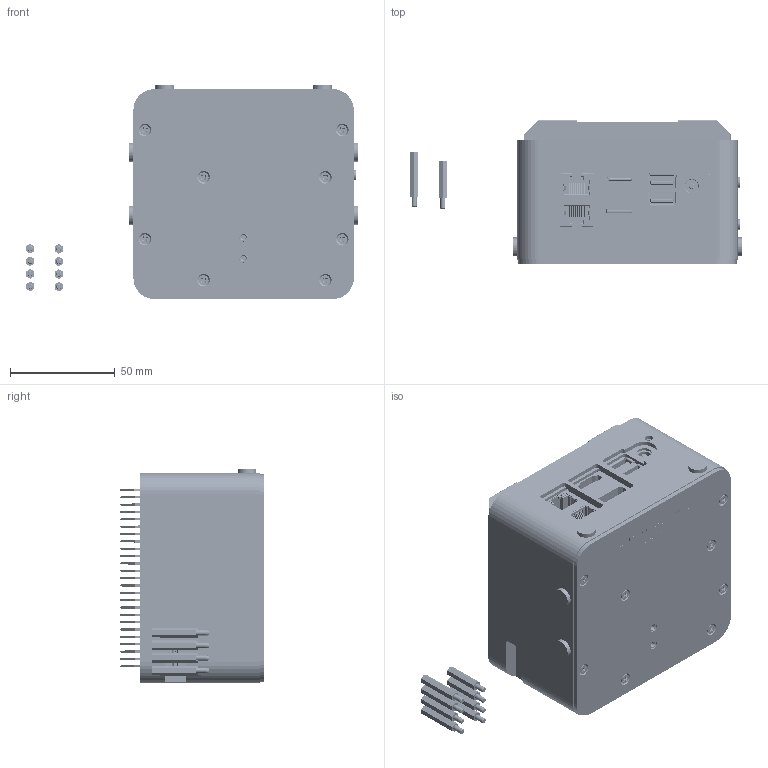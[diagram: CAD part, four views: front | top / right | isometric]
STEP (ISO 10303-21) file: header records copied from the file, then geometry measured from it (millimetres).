
FILE_DESCRIPTION (( 'STEP AP203' ), '1' );
FILE_NAME ('HS-ATM+MID-57+BOTPLT 190114.STEP', '2019-01-14T03:19:50', ( '' ), ( '' ), 'SwSTEP 2.0', 'SolidWorks 2013', '' );
FILE_SCHEMA (( 'CONFIG_CONTROL_DESIGN' ));
Length unit declared in the file: millimetre
Products named in the file (69): G7410-22000001-00_2_ASM; 蹟譫M2.5XH5X23; R47_4; U43_2; FH35-41S-0_3SHW_ASM_2_ASM; 1655802020_2; HS-ATM+MID-57+BOTPLT 190114; PCB-85-85_16; 蹟譫M2.5XH5X26; CHIKE-1_4; PCBA-UP2-85-56_ASM_91_ASM; 3VD1120X-XHJ0-4H_20160602_4; ASSEMBLY-1_ASM_2_ASM; U11_3; 5406-X01-021-XX_ASM_1_ASM; 笢褲 UP2 lora 20180621; MINI-PCI-EXPRESS-52PIN_2; M2.5X3.4鎚芛穩隊; 狟裔啣 UP2 0927; CPU_9; 硅胶塞 9.5X6.5X9; MANIFOLD_SOLID_BREP_278388; 1654809302_2; SO-M2P5-STANDOFF-L5P0_2; FH35-21S-03SHW_2; AYF333135-CLOSED_2; 1601000990_3; PRT0211_3_2; MANIFOLD_SOLID_BREP_278877; 导热垫 10X10X1.5; 导热垫 33X26X0.5; U10_3; MANIFOLD_SOLID_BREP_278714; ASM0111_ASM_2_ASM; PRT0213_3_2; 1304300140_2; 530470210_2; FH35-41S-03SHW_2; M-2_ASM_2_ASM; 5406-X01-011-XX_ASM_ASM_1_ASM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
Assembly tree (109 placements, depth 6):
  HS-ATM+MID-57+BOTPLT 190114
    导热垫 10X10X1.5  x2
    导热垫 33X26X0.5
    奻裔啣 UP2  ATOM UP2-2
    MID-57 20181023
      笢褲 UP2 lora 20180621
      絳盄漆蹴 21X14X1
      絳盄漆蹴 85X33X1
      硅胶塞 5X5.5X3.3  x2
      硅胶塞 9.5X6.5X9  x6
      蹟譫M2.5XH5X26  x4
      蹟譫M2.5XH5X23  x4
    pcba-up2+heatsink-106-06-01  无标准散热片
      PCBA-UP2-85-56_ASM_91_ASM
        PCB-85-85_16
        PIN-HEADER-DUAL-254-040_2
        1652503109_2
        1654907009_4
        1304300140_2  x4
        1601000990_3
        PIN-HEADER-2P0-06_2
        1655910130_2
        530470210_2
        M-2_ASM_2_ASM
          PRT0210_3_2
          PRT0211_3_2  x4
          PRT0212_3_2  x4
          PRT0213_3_2  x2
          2230-MINI-PCIE_3_2
        0717A0BA99C_2
        SO-M2P5-STANDOFF-L5P0_2
        MINI-PCI-EXPRESS-52PIN_2
        SO-GUIDE-M3_STANDOFFS-_5P0_2
        CPU_9
        1654801010_4
        G7410-22000001-00_2_ASM
          G7410-22000001-00_2_ASM
          MANIFOLD_SOLID_BREP_278388
          MANIFOLD_SOLID_BREP_278551
          MANIFOLD_SOLID_BREP_278714
          MANIFOLD_SOLID_BREP_278877
        WAFER-JST-B02B-PH-K-S_2
        FH35-21S-0_3SHW_ASM_2_ASM
          ASSEMBLY-1_ASM_2_ASM
            FH35-21S-03SHW_2
        FH35-41S-0_3SHW_ASM_2_ASM
          ASM0111_ASM_2_ASM
            FH35-41S-03SHW_2
        AYF333135-CLOSED_2
        U11_3
        U10_3  x3
        U52_4
        U43_2
        CHIKE-1_4
        CHOKE_4
        R47_4  x5
        CN3_3  x2
        3VD1120X-XHJ0-4H_20160602_4
        AXK6S60547Y_3
        1654809302_2
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Bounding box: 158.15 x 68.4 x 102 mm (x, y, z)
Volume: 225674.3 mm3; surface area: 230937.8 mm2
Topology: 96 solids, 130 shells, 18715 faces, 52546 edges, 34024 vertices
Faces by surface type: plane 12631, cylinder 4542, bspline 664, cone 550, torus 328
Entity records: 593410 total; most frequent: CARTESIAN_POINT 149053, ORIENTED_EDGE 97105, DIRECTION 80926, EDGE_CURVE 48563, VECTOR 35122, LINE 35122, VERTEX_POINT 31751, AXIS2_PLACEMENT_3D 22902
